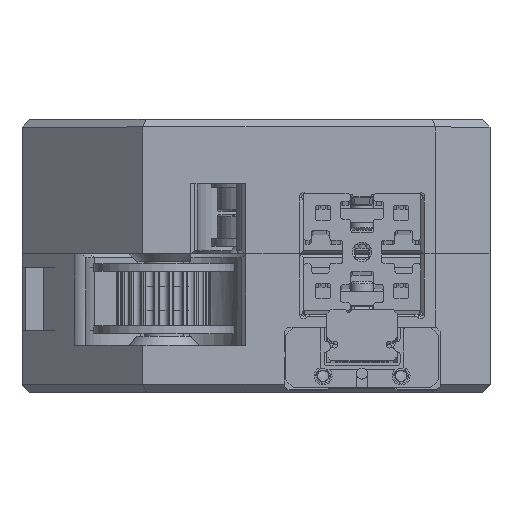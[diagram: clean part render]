
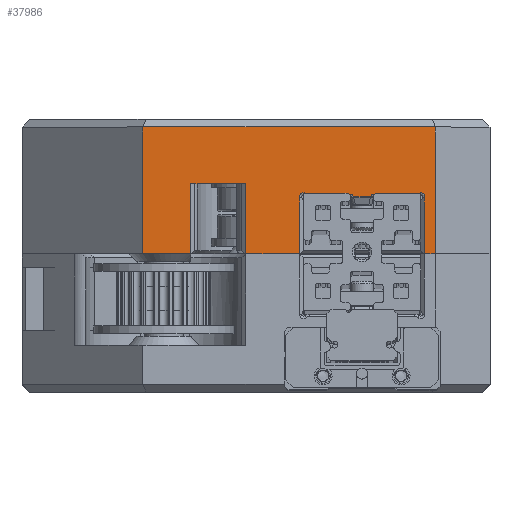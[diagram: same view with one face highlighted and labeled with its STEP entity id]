
A CAD part, top view. The second image highlights one B-rep face of the part: STEP entity #37986.
In plain terms, the highlighted planar face has unit normal (0, 0, 1).
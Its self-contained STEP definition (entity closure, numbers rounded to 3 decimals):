
#93=ELLIPSE('',#41687,0.227,0.1);
#94=ELLIPSE('',#41688,0.227,0.1);
#1704=PLANE('',#41684);
#4452=FACE_OUTER_BOUND('',#6661,.T.);
#6661=EDGE_LOOP('',(#35036,#35037,#35038,#35039,#35040,#35041,#35042,#35043,
#35044,#35045,#35046,#35047,#35048,#35049,#35050,#35051,#35052,#35053,#35054,
#35055));
#10426=LINE('',#121168,#13256);
#10427=LINE('',#121171,#13257);
#10439=LINE('',#121195,#13269);
#10444=LINE('',#121217,#13274);
#10445=LINE('',#121219,#13275);
#10446=LINE('',#121221,#13276);
#10447=LINE('',#121223,#13277);
#10448=LINE('',#121229,#13278);
#10449=LINE('',#121233,#13279);
#10450=LINE('',#121237,#13280);
#10451=LINE('',#121242,#13281);
#10452=LINE('',#121244,#13282);
#10453=LINE('',#121246,#13283);
#10454=LINE('',#121247,#13284);
#13256=VECTOR('',#51136,10.);
#13257=VECTOR('',#51139,10.);
#13269=VECTOR('',#51151,10.);
#13274=VECTOR('',#51170,10.);
#13275=VECTOR('',#51171,10.);
#13276=VECTOR('',#51172,10.);
#13277=VECTOR('',#51173,10.);
#13278=VECTOR('',#51178,10.);
#13279=VECTOR('',#51181,10.);
#13280=VECTOR('',#51184,10.);
#13281=VECTOR('',#51189,10.);
#13282=VECTOR('',#51190,10.);
#13283=VECTOR('',#51191,10.);
#13284=VECTOR('',#51192,10.);
#15055=CIRCLE('',#41685,0.55);
#15056=CIRCLE('',#41686,0.7);
#15057=CIRCLE('',#41689,0.7);
#15058=CIRCLE('',#41690,0.55);
#18631=VERTEX_POINT('',#121150);
#18637=VERTEX_POINT('',#121166);
#18638=VERTEX_POINT('',#121170);
#18649=VERTEX_POINT('',#121192);
#18650=VERTEX_POINT('',#121194);
#18660=VERTEX_POINT('',#121216);
#18661=VERTEX_POINT('',#121218);
#18662=VERTEX_POINT('',#121220);
#18663=VERTEX_POINT('',#121222);
#18664=VERTEX_POINT('',#121224);
#18665=VERTEX_POINT('',#121226);
#18666=VERTEX_POINT('',#121228);
#18667=VERTEX_POINT('',#121230);
#18668=VERTEX_POINT('',#121232);
#18669=VERTEX_POINT('',#121234);
#18670=VERTEX_POINT('',#121236);
#18671=VERTEX_POINT('',#121238);
#18672=VERTEX_POINT('',#121240);
#18673=VERTEX_POINT('',#121243);
#18674=VERTEX_POINT('',#121245);
#24133=EDGE_CURVE('',#18637,#18631,#10426,.T.);
#24134=EDGE_CURVE('',#18631,#18638,#10427,.T.);
#24146=EDGE_CURVE('',#18650,#18649,#10439,.T.);
#24157=EDGE_CURVE('',#18660,#18637,#10444,.T.);
#24158=EDGE_CURVE('',#18660,#18661,#10445,.T.);
#24159=EDGE_CURVE('',#18662,#18661,#10446,.T.);
#24160=EDGE_CURVE('',#18663,#18662,#10447,.T.);
#24161=EDGE_CURVE('',#18664,#18663,#15055,.T.);
#24162=EDGE_CURVE('',#18665,#18664,#15056,.T.);
#24163=EDGE_CURVE('',#18666,#18665,#10448,.T.);
#24164=EDGE_CURVE('',#18667,#18666,#93,.T.);
#24165=EDGE_CURVE('',#18668,#18667,#10449,.T.);
#24166=EDGE_CURVE('',#18669,#18668,#94,.T.);
#24167=EDGE_CURVE('',#18670,#18669,#10450,.T.);
#24168=EDGE_CURVE('',#18671,#18670,#15057,.T.);
#24169=EDGE_CURVE('',#18672,#18671,#15058,.T.);
#24170=EDGE_CURVE('',#18650,#18672,#10451,.T.);
#24171=EDGE_CURVE('',#18673,#18649,#10452,.T.);
#24172=EDGE_CURVE('',#18674,#18673,#10453,.T.);
#24173=EDGE_CURVE('',#18638,#18674,#10454,.T.);
#35036=ORIENTED_EDGE('',*,*,#24133,.F.);
#35037=ORIENTED_EDGE('',*,*,#24157,.F.);
#35038=ORIENTED_EDGE('',*,*,#24158,.T.);
#35039=ORIENTED_EDGE('',*,*,#24159,.F.);
#35040=ORIENTED_EDGE('',*,*,#24160,.F.);
#35041=ORIENTED_EDGE('',*,*,#24161,.F.);
#35042=ORIENTED_EDGE('',*,*,#24162,.F.);
#35043=ORIENTED_EDGE('',*,*,#24163,.F.);
#35044=ORIENTED_EDGE('',*,*,#24164,.F.);
#35045=ORIENTED_EDGE('',*,*,#24165,.F.);
#35046=ORIENTED_EDGE('',*,*,#24166,.F.);
#35047=ORIENTED_EDGE('',*,*,#24167,.F.);
#35048=ORIENTED_EDGE('',*,*,#24168,.F.);
#35049=ORIENTED_EDGE('',*,*,#24169,.F.);
#35050=ORIENTED_EDGE('',*,*,#24170,.F.);
#35051=ORIENTED_EDGE('',*,*,#24146,.T.);
#35052=ORIENTED_EDGE('',*,*,#24171,.F.);
#35053=ORIENTED_EDGE('',*,*,#24172,.F.);
#35054=ORIENTED_EDGE('',*,*,#24173,.F.);
#35055=ORIENTED_EDGE('',*,*,#24134,.F.);
#37986=ADVANCED_FACE('',(#4452),#1704,.T.);
#41684=AXIS2_PLACEMENT_3D('',#121215,#51168,#51169);
#41685=AXIS2_PLACEMENT_3D('',#121225,#51174,#51175);
#41686=AXIS2_PLACEMENT_3D('',#121227,#51176,#51177);
#41687=AXIS2_PLACEMENT_3D('',#121231,#51179,#51180);
#41688=AXIS2_PLACEMENT_3D('',#121235,#51182,#51183);
#41689=AXIS2_PLACEMENT_3D('',#121239,#51185,#51186);
#41690=AXIS2_PLACEMENT_3D('',#121241,#51187,#51188);
#51136=DIRECTION('',(0.,-1.,0.));
#51139=DIRECTION('',(-1.,0.,0.));
#51151=DIRECTION('',(1.,0.,0.));
#51168=DIRECTION('center_axis',(0.,0.,
1.));
#51169=DIRECTION('ref_axis',(1.,0.,0.));
#51170=DIRECTION('',(-1.,0.,0.));
#51171=DIRECTION('',(0.,-1.,0.));
#51172=DIRECTION('',(-1.,0.,0.));
#51173=DIRECTION('',(0.,-1.,0.));
#51174=DIRECTION('center_axis',(0.,0.,
1.));
#51175=DIRECTION('ref_axis',(-0.447,0.894,0.));
#51176=DIRECTION('center_axis',(0.,0.,
-1.));
#51177=DIRECTION('ref_axis',(-0.316,-0.949,0.));
#51178=DIRECTION('',(-1.,0.,0.));
#51179=DIRECTION('center_axis',(0.,0.,
-1.));
#51180=DIRECTION('ref_axis',(0.196,-0.981,0.));
#51181=DIRECTION('',(-1.,0.,0.));
#51182=DIRECTION('center_axis',(0.,0.,
-1.));
#51183=DIRECTION('ref_axis',(-0.196,-0.981,0.));
#51184=DIRECTION('',(-1.,0.,0.));
#51185=DIRECTION('center_axis',(0.,0.,
-1.));
#51186=DIRECTION('ref_axis',(0.316,-0.949,0.));
#51187=DIRECTION('center_axis',(0.,0.,
1.));
#51188=DIRECTION('ref_axis',(0.447,0.894,0.));
#51189=DIRECTION('',(0.,1.,0.));
#51190=DIRECTION('',(0.,-1.,0.));
#51191=DIRECTION('',(1.,0.,0.));
#51192=DIRECTION('',(0.,1.,0.));
#121150=CARTESIAN_POINT('',(-14.344,-16.25,37.));
#121166=CARTESIAN_POINT('',(-14.344,-7.25,37.));
#121168=CARTESIAN_POINT('',(-14.344,-8.125,37.));
#121170=CARTESIAN_POINT('',(-20.515,-16.25,37.));
#121171=CARTESIAN_POINT('',(17.,-16.25,37.));
#121192=CARTESIAN_POINT('',(17.,-16.25,37.));
#121194=CARTESIAN_POINT('',(15.6,-16.25,37.));
#121195=CARTESIAN_POINT('',(4.095,-16.25,37.));
#121215=CARTESIAN_POINT('Origin',(0.1,-9.,37.));
#121216=CARTESIAN_POINT('',(-7.32,-7.25,37.));
#121217=CARTESIAN_POINT('',(-2.95,-7.25,37.));
#121218=CARTESIAN_POINT('',(-7.32,-16.25,37.));
#121219=CARTESIAN_POINT('',(-7.32,-8.125,37.));
#121220=CARTESIAN_POINT('',(-0.4,-16.25,37.));
#121221=CARTESIAN_POINT('',(-4.28,-16.25,37.));
#121222=CARTESIAN_POINT('',(-0.4,-9.229,37.));
#121223=CARTESIAN_POINT('',(-0.4,-16.5,37.));
#121224=CARTESIAN_POINT('',(0.43,-8.56,37.));
#121225=CARTESIAN_POINT('Origin',(0.1,-9.,37.));
#121226=CARTESIAN_POINT('',(0.85,-8.7,37.));
#121227=CARTESIAN_POINT('Origin',(0.85,-8.,37.));
#121228=CARTESIAN_POINT('',(6.397,-8.7,37.));
#121229=CARTESIAN_POINT('',(3.825,-8.7,37.));
#121230=CARTESIAN_POINT('',(6.535,-8.929,37.));
#121231=CARTESIAN_POINT('Origin',(6.499,-8.706,37.));
#121232=CARTESIAN_POINT('',(8.665,-8.929,37.));
#121233=CARTESIAN_POINT('',(1.975,-8.929,37.));
#121234=CARTESIAN_POINT('',(8.803,-8.7,37.));
#121235=CARTESIAN_POINT('Origin',(8.701,-8.706,37.));
#121236=CARTESIAN_POINT('',(14.35,-8.7,37.));
#121237=CARTESIAN_POINT('',(3.825,-8.7,37.));
#121238=CARTESIAN_POINT('',(14.77,-8.56,37.));
#121239=CARTESIAN_POINT('Origin',(14.35,-8.,37.));
#121240=CARTESIAN_POINT('',(15.6,-9.229,37.));
#121241=CARTESIAN_POINT('Origin',(15.1,-9.,37.));
#121242=CARTESIAN_POINT('',(15.6,-16.5,37.));
#121243=CARTESIAN_POINT('',(17.,0.,37.));
#121244=CARTESIAN_POINT('',(17.,-12.75,37.));
#121245=CARTESIAN_POINT('',(-20.515,0.,37.));
#121246=CARTESIAN_POINT('',(3.825,0.,37.));
#121247=CARTESIAN_POINT('',(-20.515,-12.75,37.));
